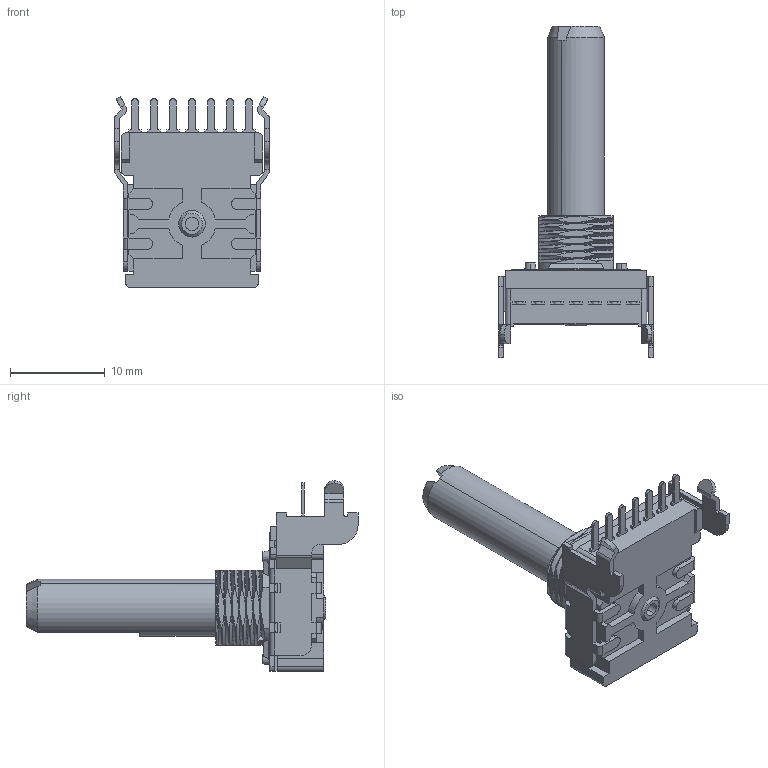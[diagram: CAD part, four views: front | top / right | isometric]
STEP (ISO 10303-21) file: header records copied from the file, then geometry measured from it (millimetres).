
FILE_DESCRIPTION (( 'STEP AP203' ), '1' );
FILE_NAME ('P140KV1-F25.STEP', '2026-09-14T19:01:18', ( '' ), ( '' ), 'SwSTEP 2.0', 'SolidWorks 2026', '' );
FILE_SCHEMA (( 'CONFIG_CONTROL_DESIGN' ));
Length unit declared in the file: millimetre
Products named in the file (8): KV_housing; bushing; 1-F25; P140KV1-F25; Housing; KV1 bracket; spring_plate; H-terminal
Assembly tree (13 placements, depth 3):
  P140KV1-F25
    KV_housing
      Housing
      H-terminal  x7
    1-F25
    spring_plate
    bushing
    KV1 bracket
Bounding box: 16.3 x 35 x 20.1 mm (x, y, z)
Volume: 1788.6 mm3; surface area: 3213.8 mm2
Topology: 12 solids, 12 shells, 701 faces, 1945 edges, 1268 vertices
Faces by surface type: plane 442, cylinder 179, bspline 61, cone 17, torus 2
Entity records: 34945 total; most frequent: CARTESIAN_POINT 17982, ORIENTED_EDGE 3602, DIRECTION 3004, EDGE_CURVE 1801, VERTEX_POINT 1172, LINE 1160, VECTOR 1160, AXIS2_PLACEMENT_3D 922
